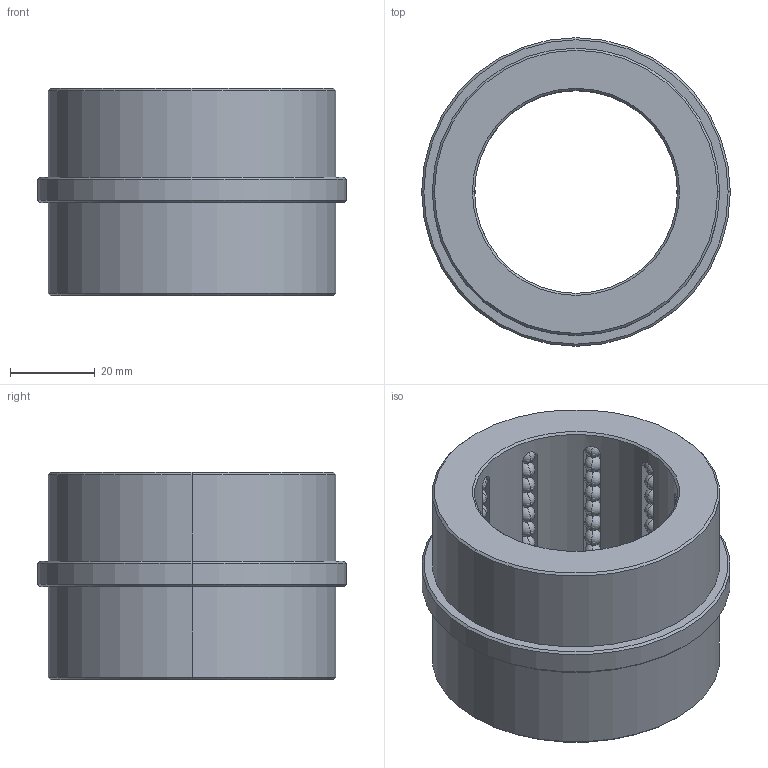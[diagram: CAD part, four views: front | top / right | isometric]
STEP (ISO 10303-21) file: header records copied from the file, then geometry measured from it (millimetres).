
FILE_DESCRIPTION((''),'2;1');
FILE_NAME('B8454836','2018-01-24T',('MANU'),(''),'PRO/ENGINEER BY PARAMETRIC TECHNOLOGY CORPORATION, 2012130','PRO/ENGINEER BY PARAMETRIC TECHNOLOGY CORPORATION, 2012130','');
FILE_SCHEMA(('CONFIG_CONTROL_DESIGN'));
Length unit declared in the file: millimetre
Products named in the file (1): B8454836
Bounding box: 73 x 73 x 49 mm (x, y, z)
Volume: 89389.6 mm3; surface area: 30877.1 mm2
Topology: 101 solids, 101 shells, 274 faces, 774 edges, 312 vertices
Faces by surface type: sphere 200, plane 34, cylinder 28, cone 12
Entity records: 6278 total; most frequent: CARTESIAN_POINT 1334, DIRECTION 1146, ORIENTED_EDGE 748, AXIS2_PLACEMENT_3D 522, EDGE_CURVE 374, VERTEX_POINT 312, EDGE_LOOP 286, FACE_OUTER_BOUND 274
